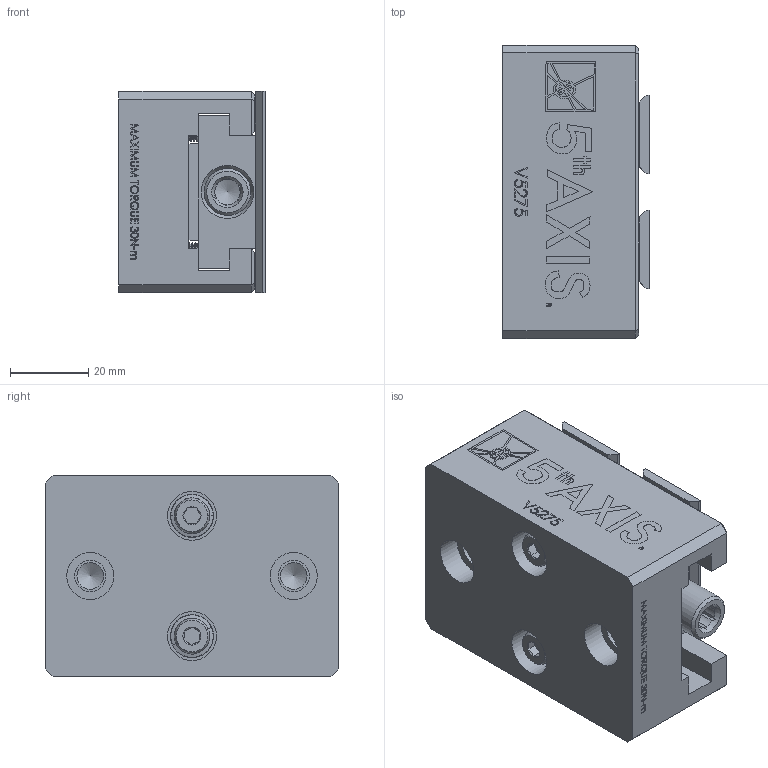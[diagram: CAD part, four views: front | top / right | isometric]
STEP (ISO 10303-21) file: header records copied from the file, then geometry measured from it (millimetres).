
FILE_DESCRIPTION (( 'STEP AP214' ), '1' );
FILE_NAME ('V5275_WEBSITE.STEP', '2025-10-28T22:31:47', ( '' ), ( '' ), 'SwSTEP 2.0', 'SolidWorks 2024', '' );
FILE_SCHEMA (( 'AUTOMOTIVE_DESIGN' ));
Length unit declared in the file: millimetre
Products named in the file (7): V5275-3B; V5275-4_WEBSITE; V5275-2_WEBSITE; M5X20.SF.SHCS.10.9.BL; V5275-3T; V5275_WEBSITE; V5275-1_WEBSITE
Assembly tree (8 placements, depth 2):
  V5275_WEBSITE
    V5275-1_WEBSITE
    V5275-2_WEBSITE  x2
    V5275-3T
    V5275-3B
    V5275-4_WEBSITE
    M5X20.SF.SHCS.10.9.BL  x2
Bounding box: 37.35 x 75.01 x 51.52 mm (x, y, z)
Volume: 115123.4 mm3; surface area: 37521.6 mm2
Topology: 8 solids, 8 shells, 4298 faces, 10509 edges, 6170 vertices
Faces by surface type: bspline 1773, torus 986, plane 758, cylinder 615, sphere 120, cone 46
Full cylindrical faces by diameter (mm): 4.2 x2, 5 x2, 5.842 x2, 6.477 x2, 6.8 x2, 8 x2, 9.5 x1, 10.8 x2, 12 x4, 12.5 x2, 13.5 x4
Entity records: 103327 total; most frequent: CARTESIAN_POINT 50674, ORIENTED_EDGE 12180, DIRECTION 9201, EDGE_CURVE 6090, AXIS2_PLACEMENT_3D 3701, VERTEX_POINT 3698, EDGE_LOOP 2614, FACE_OUTER_BOUND 2528
